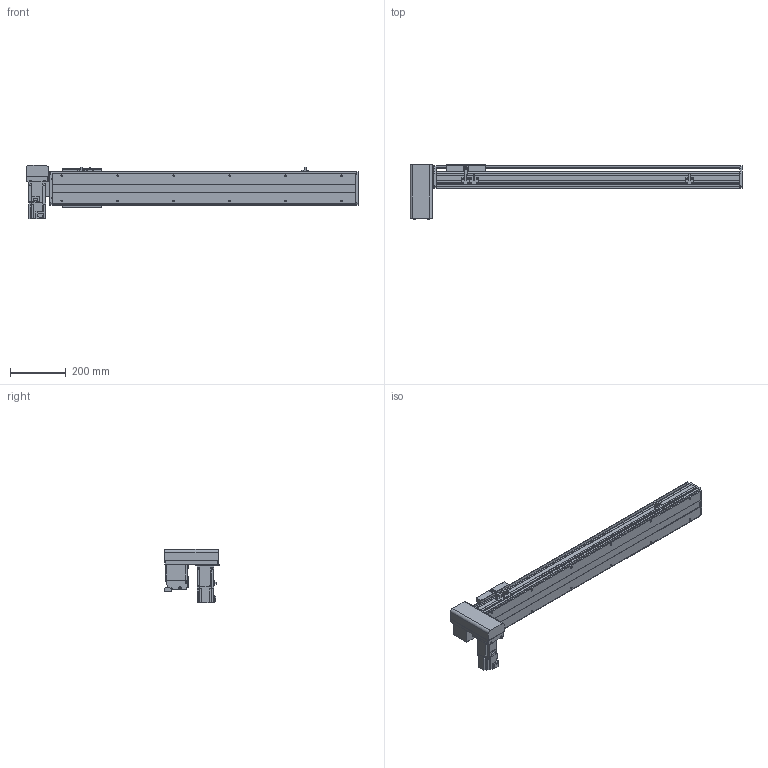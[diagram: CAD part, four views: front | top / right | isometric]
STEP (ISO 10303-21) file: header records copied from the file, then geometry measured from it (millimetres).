
FILE_DESCRIPTION( ( 'STEP AP214' ), '1' );
FILE_NAME( 'x:/temp/worker_27/temp/exporttempdir_6708_180_7A4EK/format_0/PBS120-P40-S800-RD-T40-C1-N(0).stp', '2022-06-06T00:41:14', ( 'License CC BY-ND 4.0' ), ( 'CADENAS' ), ' ', 'PARTsolutions', ' ' );
FILE_SCHEMA( ( 'AUTOMOTIVE_DESIGN { 1 0 10303 214 1 1 1 1 }' ) );
Length unit declared in the file: millimetre
Products named in the file (7): PBS120-P40-S800-RD-T40-C1-N(0); _PBS120-S800()_body; _PBS120T-RD_motors; _T40-p1; _PBS120_sliser; _PBS120_plant; _PBS120_sensor
Assembly tree (8 placements, depth 2):
  PBS120-P40-S800-RD-T40-C1-N(0)
    _PBS120-S800()_body
    _PBS120T-RD_motors
    _T40-p1
    _PBS120_sliser
    _PBS120_plant
    _PBS120_sensor  x3
Bounding box: 1186 x 196 x 189.7 mm (x, y, z)
Volume: 5310411.4 mm3; surface area: 1020022.7 mm2
Topology: 8 solids, 8 shells, 816 faces, 2136 edges, 1375 vertices
Faces by surface type: plane 545, cylinder 225, cone 44, torus 2
Full cylindrical faces by diameter (mm): 2.459 x6, 3.242 x4, 4 x2, 4.134 x4, 4.5 x10, 4.917 x16, 5.5 x11, 6 x2, 6.6 x1, 7 x2, 8.5 x4, 9 x4, 12 x1, 14 x1, 30 x2, 40 x1, 50 x2
Entity records: 26988 total; most frequent: DIRECTION 3692, CARTESIAN_POINT 3641, ORIENTED_EDGE 3478, EDGE_CURVE 1739, AXIS2_PLACEMENT_3D 1232, LINE 1228, VECTOR 1228, VERTEX_POINT 1181
